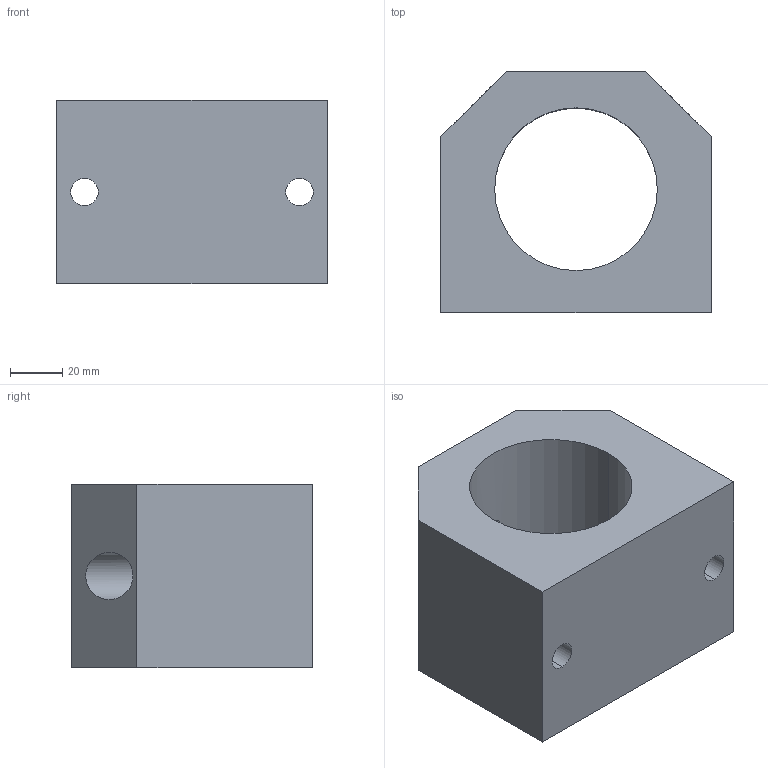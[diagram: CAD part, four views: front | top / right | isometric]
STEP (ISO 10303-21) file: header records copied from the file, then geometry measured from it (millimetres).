
FILE_DESCRIPTION (( 'STEP AP214' ), '1' );
FILE_NAME ('KGC27-50.step', '2020-03-04T13:07:17', ( '' ), ( '' ), 'SwSTEP 2.0', 'SolidWorks 2019', '' );
FILE_SCHEMA (( 'AUTOMOTIVE_DESIGN' ));
Length unit declared in the file: millimetre
Products named in the file (1): KGC27-50
Bounding box: 103 x 92 x 70 mm (x, y, z)
Volume: 383694.5 mm3; surface area: 56821.2 mm2
Topology: 1 solids, 1 shells, 22 faces, 54 edges, 36 vertices
Faces by surface type: cylinder 12, plane 10
Entity records: 834 total; most frequent: CARTESIAN_POINT 191, DIRECTION 112, ORIENTED_EDGE 108, EDGE_CURVE 54, AXIS2_PLACEMENT_3D 41, VERTEX_POINT 36, EDGE_LOOP 32, LINE 30
